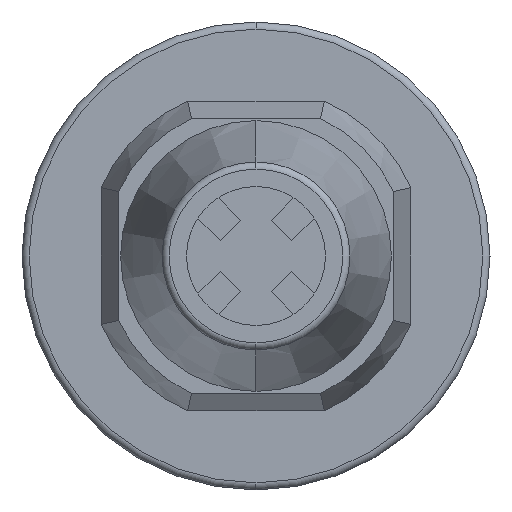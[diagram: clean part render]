
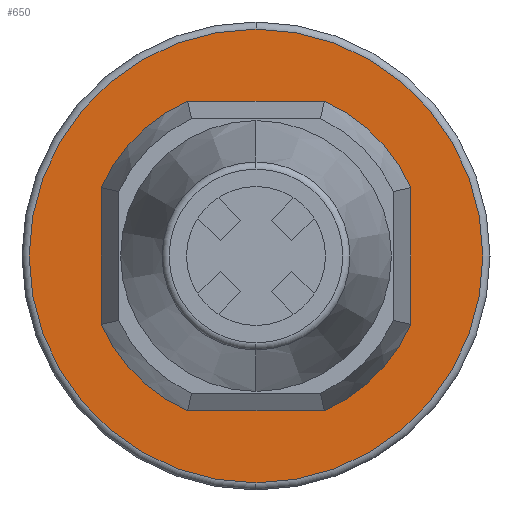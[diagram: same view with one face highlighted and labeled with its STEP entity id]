
A CAD part, left-side view. The second image highlights one B-rep face of the part: STEP entity #650.
In plain terms, the highlighted planar face has unit normal (-1, 0, 0).
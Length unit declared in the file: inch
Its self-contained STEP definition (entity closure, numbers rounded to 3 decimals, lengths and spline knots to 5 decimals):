
#379 = VERTEX_POINT ( 'NONE', #1616 ) ;
#381 = VERTEX_POINT ( 'NONE', #1610 ) ;
#389 = EDGE_CURVE ( 'NONE', #381, #379, #1809, .T. ) ;
#461 = EDGE_CURVE ( 'NONE', #462, #463, #1960, .T. ) ;
#462 = VERTEX_POINT ( 'NONE', #1955 ) ;
#463 = VERTEX_POINT ( 'NONE', #1954 ) ;
#649 = EDGE_CURVE ( 'NONE', #379, #381, #2198, .T. ) ;
#650 = ADVANCED_FACE ( 'NONE', ( #2194, #2193 ), #2191, .F. ) ;
#718 = EDGE_LOOP ( 'NONE', ( #719, #720 ) ) ;
#719 = ORIENTED_EDGE ( 'NONE', *, *, #461, .F. ) ;
#720 = ORIENTED_EDGE ( 'NONE', *, *, #721, .F. ) ;
#721 = EDGE_CURVE ( 'NONE', #463, #462, #2388, .T. ) ;
#722 = EDGE_LOOP ( 'NONE', ( #723, #724 ) ) ;
#723 = ORIENTED_EDGE ( 'NONE', *, *, #389, .T. ) ;
#724 = ORIENTED_EDGE ( 'NONE', *, *, #649, .T. ) ;
#1610 = CARTESIAN_POINT ( 'NONE',  ( 0.647, 0., 0.1575 ) ) ;
#1616 = CARTESIAN_POINT ( 'NONE',  ( 0.647, 0., -0.1575 ) ) ;
#1680 = DIRECTION ( 'NONE',  ( 0., 0., 1. ) ) ;
#1806 = DIRECTION ( 'NONE',  ( -1., 0., 0. ) ) ;
#1807 = CARTESIAN_POINT ( 'NONE',  ( 0.647, 0., 0. ) ) ;
#1808 = AXIS2_PLACEMENT_3D ( 'NONE', #1807, #1806, #1680 ) ;
#1809 = CIRCLE ( 'NONE', #1808, 0.1575 ) ;
#1954 = CARTESIAN_POINT ( 'NONE',  ( 0.647, 0., -0.103 ) ) ;
#1955 = CARTESIAN_POINT ( 'NONE',  ( 0.647, 0., 0.103 ) ) ;
#1956 = DIRECTION ( 'NONE',  ( 0., 0., 1. ) ) ;
#1957 = DIRECTION ( 'NONE',  ( -1., 0., 0. ) ) ;
#1958 = CARTESIAN_POINT ( 'NONE',  ( 0.647, 0., 0. ) ) ;
#1959 = AXIS2_PLACEMENT_3D ( 'NONE', #1958, #1957, #1956 ) ;
#1960 = CIRCLE ( 'NONE', #1959, 0.103 ) ;
#2187 = DIRECTION ( 'NONE',  ( 0., 0., -1. ) ) ;
#2188 = DIRECTION ( 'NONE',  ( 1., 0., 0. ) ) ;
#2189 = CARTESIAN_POINT ( 'NONE',  ( 0.647, 0.103, 0. ) ) ;
#2190 = AXIS2_PLACEMENT_3D ( 'NONE', #2189, #2188, #2187 ) ;
#2191 = PLANE ( 'NONE',  #2190 ) ;
#2193 = FACE_OUTER_BOUND ( 'NONE', #722, .T. ) ;
#2194 = FACE_BOUND ( 'NONE', #718, .T. ) ;
#2195 = DIRECTION ( 'NONE',  ( 0., 0., 1. ) ) ;
#2196 = DIRECTION ( 'NONE',  ( -1., 0., 0. ) ) ;
#2197 = AXIS2_PLACEMENT_3D ( 'NONE', #2204, #2196, #2195 ) ;
#2198 = CIRCLE ( 'NONE', #2197, 0.1575 ) ;
#2204 = CARTESIAN_POINT ( 'NONE',  ( 0.647, 0., 0. ) ) ;
#2384 = DIRECTION ( 'NONE',  ( 0., 0., 1. ) ) ;
#2385 = DIRECTION ( 'NONE',  ( -1., 0., 0. ) ) ;
#2386 = CARTESIAN_POINT ( 'NONE',  ( 0.647, 0., 0. ) ) ;
#2387 = AXIS2_PLACEMENT_3D ( 'NONE', #2386, #2385, #2384 ) ;
#2388 = CIRCLE ( 'NONE', #2387, 0.103 ) ;
